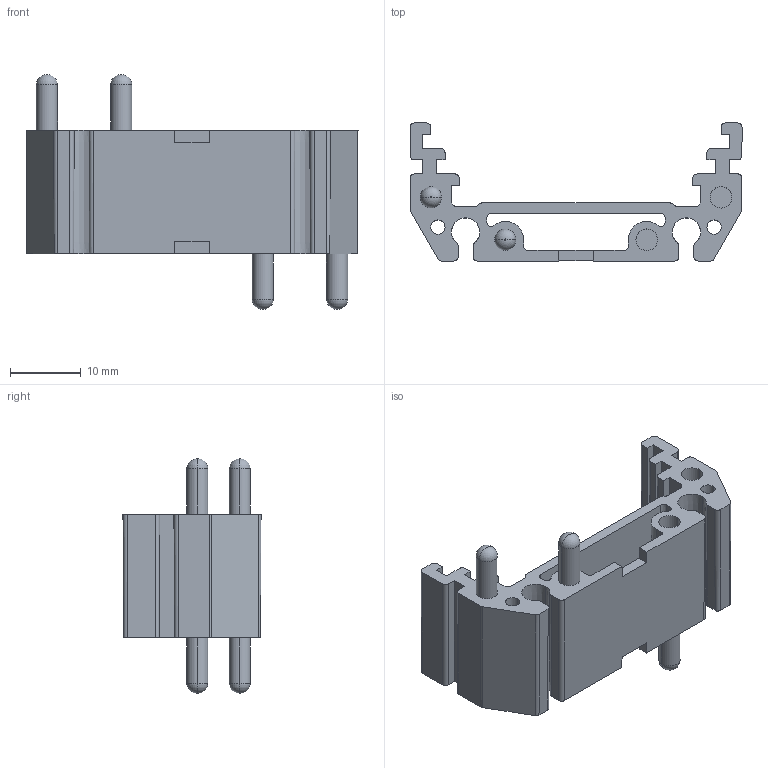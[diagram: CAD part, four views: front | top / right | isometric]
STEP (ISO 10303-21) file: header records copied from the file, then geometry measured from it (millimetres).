
FILE_DESCRIPTION (( 'STEP AP203' ), '1' );
FILE_NAME ('RT-043-2.STEP', '2024-12-03T13:29:05', ( '' ), ( '' ), 'SwSTEP 2.0', 'SolidWorks 2021', '' );
FILE_SCHEMA (( 'CONFIG_CONTROL_DESIGN' ));
Length unit declared in the file: millimetre
Products named in the file (1): RT-043-2
Bounding box: 46.9 x 19.5 x 33.1 mm (x, y, z)
Volume: 4999.9 mm3; surface area: 6060.5 mm2
Topology: 1 solids, 1 shells, 144 faces, 400 edges, 264 vertices
Faces by surface type: plane 72, cylinder 30, bspline 20, cone 14, torus 8
Entity records: 5097 total; most frequent: CARTESIAN_POINT 1433, ORIENTED_EDGE 800, DIRECTION 674, EDGE_CURVE 400, VERTEX_POINT 264, LINE 256, VECTOR 256, AXIS2_PLACEMENT_3D 209
